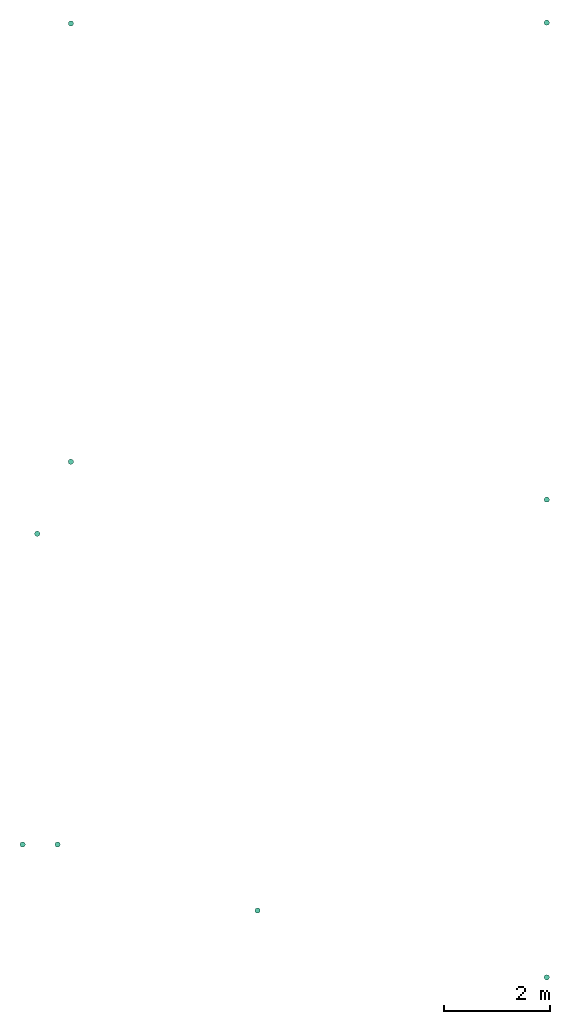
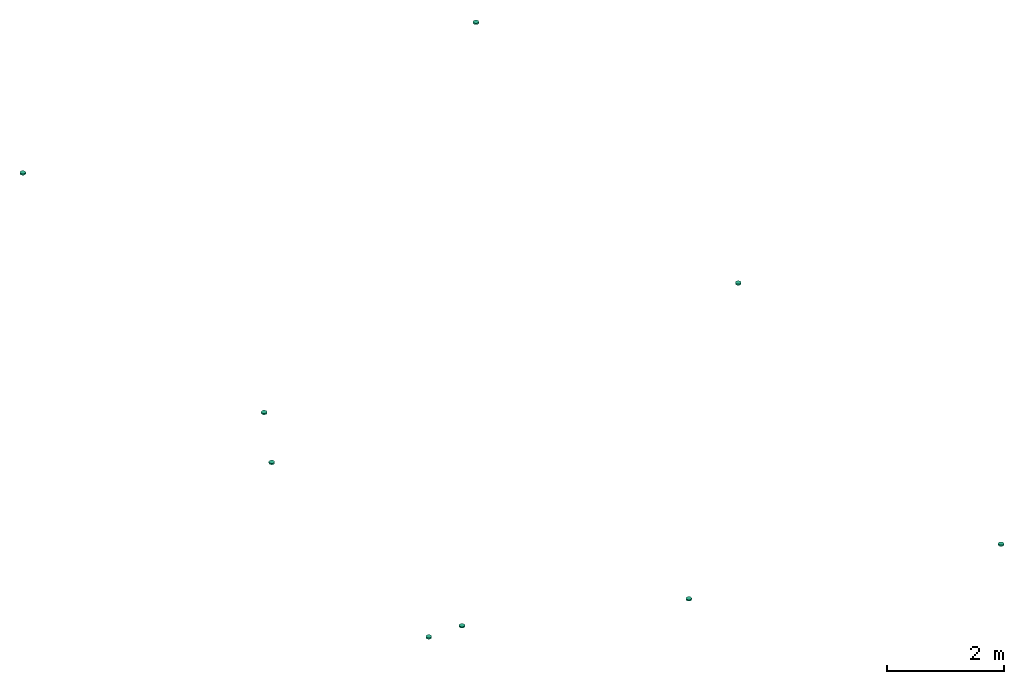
# One storey: 9 distribution control elements.
"""IFC2X3 building model written with IfcOpenShell, lengths in millimetres."""

from ifc_helpers import new_model, entity, si_unit, converted_unit, derived_unit, direction, frame, origin_with_axes, place, context, subcontext, project, spatial, open_shell, surface_model, source, transform, mapped, type_object, element, save


model = new_model("IFC2X3")

# Units and contexts
model_context = context("Model", 3, precision=0.01, world=frame((0.0, 4.29681676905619e-09, 0.0)), true_north=direction((4.01073788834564e-13, 1.0)))
plan_context = context("Plan", 3, precision=0.01, world=frame((0.0, 4.29681676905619e-09, 0.0)), true_north=direction((4.01073788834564e-13, 1.0)))
body_context = subcontext(model_context, "Body", "Model", "MODEL_VIEW")
ifc_project = project(units=[converted_unit("PLANEANGLEUNIT", "DEGREE", entity("IfcPositiveLengthMeasure", 0.0174532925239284), si_unit("PLANEANGLEUNIT", "RADIAN"), dimensions=[0, 0, 0, 0, 0, 0, 0]), si_unit("AREAUNIT", "SQUARE_METRE"), si_unit("LENGTHUNIT", "METRE", prefix="MILLI"), si_unit("MASSUNIT", "GRAM", prefix="KILO"), si_unit("POWERUNIT", "WATT"), si_unit("PRESSUREUNIT", "PASCAL"), si_unit("FORCEUNIT", "NEWTON", prefix="KILO"), si_unit("ELECTRICCURRENTUNIT", "AMPERE"), si_unit("THERMODYNAMICTEMPERATUREUNIT", "DEGREE_CELSIUS"), si_unit("TIMEUNIT", "SECOND"), si_unit("VOLUMEUNIT", "CUBIC_METRE"), derived_unit("LINEARVELOCITYUNIT", [(si_unit("LENGTHUNIT", "METRE"), 1), (si_unit("TIMEUNIT", "SECOND"), -1)]), derived_unit("VOLUMETRICFLOWRATEUNIT", [(si_unit("VOLUMEUNIT", "CUBIC_METRE"), 1), (si_unit("TIMEUNIT", "SECOND"), -1)]), derived_unit("THERMALTRANSMITTANCEUNIT", [(si_unit("POWERUNIT", "WATT"), 1), (si_unit("THERMODYNAMICTEMPERATUREUNIT", "KELVIN"), -1), (si_unit("AREAUNIT", "SQUARE_METRE"), -1)])], contexts=[model_context, plan_context])

# Site, building, storey
site_placement = place(None, frame((0.0, -4.29681676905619e-09, 0.0), z_axis=(0.0, 0.0, 1.0), x_axis=(1.0, 0.0, 0.0)))
site = spatial("IfcSite", under=ifc_project, at=site_placement, Name="ENGM", CompositionType="ELEMENT")
building_placement = place(site_placement, frame((0.0, 4.29681676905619e-09, 0.0), z_axis=(0.0, 0.0, 1.0), x_axis=(1.0, 0.0, 0.0)))
building = spatial("IfcBuilding", under=site, at=building_placement, Name="TS", CompositionType="ELEMENT")
storey_placement = place(building_placement, frame((0.0, 0.0, 200300.0), z_axis=(0.0, 0.0, 1.0), x_axis=(1.0, 0.0, 0.0)))
storey = spatial("IfcBuildingStorey", under=building, at=storey_placement, Name="Nivå C", CompositionType="ELEMENT", Elevation=200300.0)

# Distribution control elements
alarm_type = type_object("IfcAlarmType", Name="Standard", PredefinedType="NOTDEFINED")
shared_shape = source(origin_with_axes(), body_context, "Body", "SurfaceModel", [
    surface_model("IfcShellBasedSurfaceModel", [(-25.0, 43.30127, -28.9), (-35.35534, 35.35534, -28.9), (-18.0, 31.17691, -28.9), (-25.45584, 25.45584, -28.9), (-9.31749, 34.77333, -28.9), (-12.94095, 48.29629, -28.9), (0.0, 36.0, -28.9), (0.0, 50.0, -28.9), (-34.77333, 9.31749, -28.9), (-43.30127, 25.0, -28.9), (-48.29629, 12.94095, -28.9), (-36.0, 0.0, -28.9), (-50.0, 0.0, -28.9), (-31.17691, 18.0, -28.9), (9.31749, 34.77333, -28.9), (12.94095, 48.29629, -28.9), (18.0, 31.17691, -28.9), (35.35534, 35.35534, -28.9), (25.0, 43.30127, -28.9), (25.45584, 25.45584, -28.9), (31.17691, 18.0, -28.9), (34.77333, 9.31749, -28.9), (43.30127, 25.0, -28.9), (48.29629, 12.94095, -28.9), (36.0, 0.0, -28.9), (50.0, 0.0, -28.9), (-34.77333, -9.31749, -28.9), (-48.29629, -12.94095, -28.9), (-31.17691, -18.0, -28.9), (-43.30127, -25.0, -28.9), (-25.45584, -25.45584, -28.9), (-35.35534, -35.35534, -28.9), (-18.0, -31.17691, -28.9), (-25.0, -43.30127, -28.9), (-9.31749, -34.77333, -28.9), (-12.94095, -48.29629, -28.9), (0.0, -36.0, -28.9), (0.0, -50.0, -28.9), (43.30127, -25.0, -28.9), (31.17691, -18.0, -28.9), (35.35534, -35.35534, -28.9), (34.77333, -9.31749, -28.9), (48.29629, -12.94095, -28.9), (25.45584, -25.45584, -28.9), (9.31749, -34.77333, -28.9), (12.94095, -48.29629, -28.9), (18.0, -31.17691, -28.9), (25.0, -43.30127, -28.9), (-25.0, -43.30127, -29.1), (-35.35534, -35.35534, -29.1), (-18.0, -31.17691, -29.1), (-25.45584, -25.45584, -29.1), (-9.31749, -34.77333, -29.1), (-12.94095, -48.29629, -29.1), (0.0, -36.0, -29.1), (0.0, -50.0, -29.1), (-34.77333, -9.31749, -29.1), (-43.30127, -25.0, -29.1), (-48.29629, -12.94095, -29.1), (-36.0, 0.0, -29.1), (-50.0, 0.0, -29.1), (-31.17691, -18.0, -29.1), (9.31749, -34.77333, -29.1), (12.94095, -48.29629, -29.1), (18.0, -31.17691, -29.1), (35.35534, -35.35534, -29.1), (25.0, -43.30127, -29.1), (25.45584, -25.45584, -29.1), (31.17691, -18.0, -29.1), (34.77333, -9.31749, -29.1), (43.30127, -25.0, -29.1), (48.29629, -12.94095, -29.1), (36.0, 0.0, -29.1), (50.0, 0.0, -29.1), (-34.77333, 9.31749, -29.1), (-48.29629, 12.94095, -29.1), (-31.17691, 18.0, -29.1), (-43.30127, 25.0, -29.1), (-25.45584, 25.45584, -29.1), (-35.35534, 35.35534, -29.1), (-18.0, 31.17691, -29.1), (-25.0, 43.30127, -29.1), (-9.31749, 34.77333, -29.1), (-12.94095, 48.29629, -29.1), (0.0, 36.0, -29.1), (0.0, 50.0, -29.1), (43.30127, 25.0, -29.1), (31.17691, 18.0, -29.1), (35.35534, 35.35534, -29.1), (34.77333, 9.31749, -29.1), (48.29629, 12.94095, -29.1), (25.45584, 25.45584, -29.1), (9.31749, 34.77333, -29.1), (12.94095, 48.29629, -29.1), (18.0, 31.17691, -29.1), (25.0, 43.30127, -29.1), (6.47048, -24.14815, -44.9), (12.5, -21.65064, -44.9), (17.67767, -17.67767, -44.9), (24.14815, -6.47048, -44.9), (-24.14815, -6.47048, -44.9), (21.65064, -12.5, -44.9), (-21.65064, 12.5, -44.9), (0.0, -25.0, -44.9), (-12.5, -21.65064, -44.9), (-6.47048, -24.14815, -44.9), (-17.67767, -17.67767, -44.9), (-21.65064, -12.5, -44.9), (25.0, 0.0, -44.9), (24.14815, 6.47048, -44.9), (21.65064, 12.5, -44.9), (17.67767, 17.67767, -44.9), (12.5, 21.65064, -44.9), (6.47048, 24.14815, -44.9), (0.0, 25.0, -44.9), (-25.0, 0.0, -44.9), (-24.14815, 6.47048, -44.9), (-12.5, 21.65064, -44.9), (-17.67767, 17.67767, -44.9), (-6.47048, 24.14815, -44.9), (0.0, 25.0, -45.1), (6.47048, 24.14815, -45.1), (12.5, 21.65064, -45.1), (-21.65064, 12.5, -45.1), (17.67767, 17.67767, -45.1), (21.65064, 12.5, -45.1), (24.14815, 6.47048, -45.1), (-12.5, 21.65064, -45.1), (-17.67767, 17.67767, -45.1), (-6.47048, 24.14815, -45.1), (-25.0, 0.0, -45.1), (-24.14815, 6.47048, -45.1), (-24.14815, -6.47048, -45.1), (24.14815, -6.47048, -45.1), (6.47048, -24.14815, -45.1), (21.65064, -12.5, -45.1), (17.67767, -17.67767, -45.1), (12.5, -21.65064, -45.1), (-12.5, -21.65064, -45.1), (-17.67767, -17.67767, -45.1), (-21.65064, -12.5, -45.1), (0.0, -25.0, -45.1), (-6.47048, -24.14815, -45.1), (25.0, 0.0, -45.1), (-1.46739, 34.60682, -29.0), (0.0, 34.8, -29.0), (0.0, 35.0, -29.0), (-34.60682, 1.46739, -29.0), (-35.0, 0.0, -29.0), (-34.8, 0.0, -29.0), (-17.5, 30.31089, -29.0), (-18.5742, 29.23669, -29.0), (-17.4, 30.13768, -29.0), (-24.60732, -24.60732, -29.0), (-18.5742, -29.23669, -29.0), (-29.23669, -18.5742, -29.0), (34.8, 0.0, -29.0), (34.60682, -1.46739, -29.0), (35.0, 0.0, -29.0), (17.4, 30.13768, -29.0), (17.5, 30.31089, -29.0), (16.03261, 30.70407, -29.0), (30.13768, 17.4, -29.0), (30.31089, 17.5, -29.0), (29.23669, 18.5742, -29.0), (34.60682, 1.46739, -29.0), (33.61422, -9.0069, -29.0), (30.70407, -16.03261, -29.0), (-33.61422, -9.0069, -29.0), (-30.70407, -16.03261, -29.0), (-34.60682, -1.46739, -29.0), (-30.13768, -17.4, -29.0), (-30.31089, -17.5, -29.0), (-17.5, -30.31089, -29.0), (-17.4, -30.13768, -29.0), (-1.46739, -34.60682, -29.0), (0.0, -35.0, -29.0), (0.0, -34.8, -29.0), (-16.03261, -30.70407, -29.0), (-9.0069, -33.61422, -29.0), (1.46739, -34.60682, -29.0), (30.13768, -17.4, -29.0), (29.23669, -18.5742, -29.0), (30.31089, -17.5, -29.0), (24.60732, -24.60732, -29.0), (18.5742, -29.23669, -29.0), (9.0069, -33.61422, -29.0), (16.03261, -30.70407, -29.0), (-30.13768, 17.4, -29.0), (-30.31089, 17.5, -29.0), (-30.70407, 16.03261, -29.0), (17.4, -30.13768, -29.0), (17.5, -30.31089, -29.0), (-33.61422, 9.0069, -29.0), (-29.23669, 18.5742, -29.0), (-24.60732, 24.60732, -29.0), (-16.03261, 30.70407, -29.0), (-9.0069, 33.61422, -29.0), (1.46739, 34.60682, -29.0), (9.0069, 33.61422, -29.0), (18.5742, 29.23669, -29.0), (24.60732, 24.60732, -29.0), (30.70407, 16.03261, -29.0), (33.61422, 9.0069, -29.0), (23.00389, 18.55381, -38.25), (14.9, 25.80756, -38.25), (21.07178, 21.07178, -38.25), (29.66376, 1.03484, -38.25), (30.0, 0.0, -38.25), (29.8, 0.0, -38.25), (24.27051, 17.63356, -38.25), (24.68215, 16.36666, -38.25), (10.52665, 27.61906, -38.25), (28.78459, 7.71281, -38.25), (-10.52665, 27.61906, -38.25), (-23.00389, 18.55381, -38.25), (-14.9, 25.80756, -38.25), (8.32335, 28.5317, -38.25), (0.0, 29.8, -38.25), (7.71281, 28.78459, -38.25), (-8.32335, 28.5317, -38.25), (-24.68215, 16.36666, -38.25), (-28.78459, 7.71281, -38.25), (-25.80756, 14.9, -38.25), (-9.27051, 28.5317, -38.25), (-29.66376, 1.03484, -38.25), (-29.8, 0.0, -38.25), (-30.0, 0.0, -38.25), (-28.78459, -7.71281, -38.25), (-24.68215, -16.36666, -38.25), (-25.80756, -14.9, -38.25), (29.66376, -1.03484, -38.25), (-7.71281, 28.78459, -38.25), (25.80756, 14.9, -38.25), (14.9, -25.80756, -38.25), (10.52665, -27.61906, -38.25), (23.00389, -18.55381, -38.25), (28.78459, -7.71281, -38.25), (24.68215, -16.36666, -38.25), (0.0, -29.8, -38.25), (-7.71281, -28.78459, -38.25), (-8.32335, -28.5317, -38.25), (8.32335, -28.5317, -38.25), (9.27051, 28.5317, -38.25), (-29.66376, -1.03484, -38.25), (21.07178, -21.07178, -38.25), (-23.00389, -18.55381, -38.25), (-24.27051, -17.63356, -38.25), (-9.27051, -28.5317, -38.25), (-10.52665, -27.61906, -38.25), (-21.07178, -21.07178, -38.25), (-14.9, -25.80756, -38.25), (9.27051, -28.5317, -38.25), (7.71281, -28.78459, -38.25), (24.27051, -17.63356, -38.25), (25.80756, -14.9, -38.25), (-21.07178, 21.07178, -38.25), (-24.27051, 17.63356, -38.25), (33.28589, -6.39713, -29.0), (27.13526, -8.81678, -38.25), (-16.77051, -23.08263, -38.25), (-23.90544, -23.90544, -29.0), (-27.13526, -8.81678, -38.25), (-33.28589, -6.39713, -29.0), (16.77051, -23.08263, -38.25), (8.75, -32.65544, -29.0), (0.0, -28.5317, -38.25), (23.90544, -23.90544, -29.0), (-8.75, -32.65544, -29.0), (-33.28589, 6.39713, -29.0), (-27.13526, 8.81678, -38.25), (16.77051, 23.08263, -38.25), (23.90544, 23.90544, -29.0), (27.13526, 8.81678, -38.25), (33.28589, 6.39713, -29.0), (-16.77051, 23.08263, -38.25), (-8.75, 32.65544, -29.0), (0.0, 28.5317, -38.25), (-23.90544, 23.90544, -29.0), (8.75, 32.65544, -29.0), (12.4, 21.47743, -45.0), (17.53625, 17.53625, -45.0), (19.07577, 15.5299, -45.0), (20.22543, 14.69463, -45.0), (20.59905, 13.54472, -45.0), (24.66376, 1.03484, -45.0), (25.0, 0.0, -45.0), (24.8, 0.0, -45.0), (8.88673, 22.93267, -45.0), (23.95496, 6.41871, -45.0), (-8.88673, 22.93267, -45.0), (-19.07577, 15.5299, -45.0), (-12.4, 21.47743, -45.0), (6.84976, 23.77641, -45.0), (0.0, 24.8, -45.0), (6.41871, 23.95496, -45.0), (-7.72542, 23.77641, -45.0), (-6.84976, 23.77641, -45.0), (-21.47743, 12.4, -45.0), (-20.59905, 13.54472, -45.0), (-23.95496, 6.41871, -45.0), (-25.0, 0.0, -45.0), (-24.66376, 1.03484, -45.0), (-24.8, 0.0, -45.0), (-23.95496, -6.41871, -45.0), (-20.59905, -13.54472, -45.0), (-21.47743, -12.4, -45.0), (-6.41871, 23.95496, -45.0), (24.66376, -1.03484, -45.0), (21.47743, 12.4, -45.0), (12.4, -21.47743, -45.0), (8.88673, -22.93267, -45.0), (19.07577, -15.5299, -45.0), (23.95496, -6.41871, -45.0), (20.59905, -13.54472, -45.0), (0.0, -24.8, -45.0), (-6.41871, -23.95496, -45.0), (-6.84976, -23.77641, -45.0), (7.72542, -23.77641, -45.0), (6.84976, -23.77641, -45.0), (7.72542, 23.77641, -45.0), (-24.66376, -1.03484, -45.0), (17.53625, -17.53625, -45.0), (-20.22543, -14.69463, -45.0), (-19.07577, -15.5299, -45.0), (-8.88673, -22.93267, -45.0), (-7.72542, -23.77641, -45.0), (-17.53625, -17.53625, -45.0), (-12.4, -21.47743, -45.0), (6.41871, -23.95496, -45.0), (20.22543, -14.69463, -45.0), (21.47743, -12.4, -45.0), (-17.53625, 17.53625, -45.0), (-20.22543, 14.69463, -45.0), (-22.61271, -7.34732, -45.0), (-13.97542, -19.23552, -45.0), (0.0, -23.77641, -45.0), (21.83768, -9.73262, -45.0), (13.97542, -19.23552, -45.0), (23.41884, -4.86631, -45.0), (22.61271, 7.34732, -45.0), (13.97542, 19.23552, -45.0), (0.0, 23.77641, -45.0), (-21.83768, 9.73262, -45.0), (-13.97542, 19.23552, -45.0), (-23.41884, 4.86631, -45.0), (12.94095, -48.29629, 0.0), (25.0, -43.30127, 0.0), (35.35534, -35.35534, 0.0), (48.29629, -12.94095, 0.0), (-48.29629, -12.94095, 0.0), (43.30127, -25.0, 0.0), (-43.30127, 25.0, 0.0), (0.0, -50.0, 0.0), (-25.0, -43.30127, 0.0), (-12.94095, -48.29629, 0.0), (-35.35534, -35.35534, 0.0), (-43.30127, -25.0, 0.0), (50.0, 0.0, 0.0), (48.29629, 12.94095, 0.0), (43.30127, 25.0, 0.0), (35.35534, 35.35534, 0.0), (25.0, 43.30127, 0.0), (12.94095, 48.29629, 0.0), (0.0, 50.0, 0.0), (-50.0, 0.0, 0.0), (-48.29629, 12.94095, 0.0), (-25.0, 43.30127, 0.0), (-35.35534, 35.35534, 0.0), (-12.94095, 48.29629, 0.0), (0.0, 50.0, -29.0), (12.94095, 48.29629, -29.0), (25.0, 43.30127, -29.0), (-43.30127, 25.0, -29.0), (35.35534, 35.35534, -29.0), (43.30127, 25.0, -29.0), (48.29629, 12.94095, -29.0), (-25.0, 43.30127, -29.0), (-35.35534, 35.35534, -29.0), (-12.94095, 48.29629, -29.0), (-50.0, 0.0, -29.0), (-48.29629, 12.94095, -29.0), (-48.29629, -12.94095, -29.0), (48.29629, -12.94095, -29.0), (12.94095, -48.29629, -29.0), (43.30127, -25.0, -29.0), (35.35534, -35.35534, -29.0), (25.0, -43.30127, -29.0), (-25.0, -43.30127, -29.0), (-35.35534, -35.35534, -29.0), (-43.30127, -25.0, -29.0), (0.0, -50.0, -29.0), (-12.94095, -48.29629, -29.0), (50.0, 0.0, -29.0)], [open_shell([[[0, 1, 2]], [[2, 1, 3]], [[0, 2, 4]], [[5, 4, 6]], [[4, 5, 0]], [[5, 6, 7]], [[8, 9, 10]], [[11, 10, 12]], [[8, 10, 11]], [[13, 3, 9]], [[8, 13, 9]], [[9, 3, 1]], [[7, 14, 15]], [[14, 7, 6]], [[15, 14, 16]], [[17, 18, 19]], [[16, 18, 15]], [[19, 18, 16]], [[20, 21, 22]], [[20, 22, 17]], [[21, 23, 22]], [[23, 21, 24]], [[23, 24, 25]], [[20, 17, 19]], [[26, 12, 27]], [[28, 27, 29]], [[28, 26, 27]], [[30, 28, 29]], [[29, 31, 30]], [[32, 31, 33]], [[31, 32, 30]], [[32, 33, 34]], [[34, 35, 36]], [[35, 34, 33]], [[36, 35, 37]], [[38, 39, 40]], [[41, 39, 42]], [[41, 42, 25]], [[42, 39, 38]], [[39, 43, 40]], [[25, 24, 41]], [[44, 37, 45]], [[37, 44, 36]], [[44, 45, 46]], [[47, 40, 43]], [[47, 46, 45]], [[47, 43, 46]], [[26, 11, 12]], [[48, 49, 50]], [[50, 49, 51]], [[48, 50, 52]], [[53, 52, 54]], [[52, 53, 48]], [[53, 54, 55]], [[56, 57, 58]], [[59, 58, 60]], [[56, 58, 59]], [[61, 51, 57]], [[56, 61, 57]], [[57, 51, 49]], [[55, 62, 63]], [[62, 55, 54]], [[63, 62, 64]], [[65, 66, 67]], [[64, 66, 63]], [[67, 66, 64]], [[68, 69, 70]], [[68, 70, 65]], [[69, 71, 70]], [[71, 69, 72]], [[71, 72, 73]], [[68, 65, 67]], [[74, 60, 75]], [[76, 75, 77]], [[76, 74, 75]], [[78, 76, 77]], [[77, 79, 78]], [[80, 79, 81]], [[79, 80, 78]], [[80, 81, 82]], [[82, 83, 84]], [[83, 82, 81]], [[84, 83, 85]], [[86, 87, 88]], [[89, 87, 90]], [[89, 90, 73]], [[90, 87, 86]], [[87, 91, 88]], [[73, 72, 89]], [[92, 85, 93]], [[85, 92, 84]], [[92, 93, 94]], [[95, 88, 91]], [[95, 94, 93]], [[95, 91, 94]], [[74, 59, 60]], [[11, 59, 8]], [[8, 74, 13]], [[2, 3, 78]], [[76, 3, 13]], [[4, 2, 80]], [[74, 76, 13]], [[8, 59, 74]], [[84, 6, 82]], [[4, 80, 82]], [[80, 2, 78]], [[3, 76, 78]], [[4, 82, 6]], [[14, 92, 16]], [[16, 94, 19]], [[21, 20, 87]], [[91, 20, 19]], [[24, 21, 89]], [[92, 94, 16]], [[14, 84, 92]], [[21, 87, 89]], [[87, 20, 91]], [[19, 94, 91]], [[24, 89, 72]], [[6, 84, 14]], [[24, 72, 41]], [[41, 69, 39]], [[46, 43, 67]], [[68, 43, 39]], [[44, 46, 64]], [[69, 68, 39]], [[41, 72, 69]], [[54, 36, 62]], [[44, 64, 62]], [[64, 46, 67]], [[43, 68, 67]], [[44, 62, 36]], [[34, 52, 32]], [[32, 50, 30]], [[26, 28, 61]], [[51, 28, 30]], [[11, 26, 56]], [[52, 50, 32]], [[34, 54, 52]], [[26, 61, 56]], [[61, 28, 51]], [[30, 50, 51]], [[11, 56, 59]], [[36, 54, 34]], [[58, 27, 60]], [[57, 29, 58]], [[33, 49, 48]], [[57, 49, 31]], [[35, 48, 53]], [[58, 29, 27]], [[27, 12, 60]], [[35, 33, 48]], [[31, 49, 33]], [[31, 29, 57]], [[37, 35, 53]], [[53, 55, 37]], [[63, 45, 55]], [[66, 47, 63]], [[38, 65, 70]], [[66, 65, 40]], [[42, 70, 71]], [[66, 40, 47]], [[47, 45, 63]], [[25, 42, 71]], [[38, 70, 42]], [[38, 40, 65]], [[73, 25, 71]], [[55, 45, 37]], [[90, 23, 73]], [[86, 22, 90]], [[18, 88, 95]], [[86, 88, 17]], [[15, 95, 93]], [[90, 22, 23]], [[23, 25, 73]], [[15, 18, 95]], [[17, 88, 18]], [[17, 22, 86]], [[7, 15, 93]], [[93, 85, 7]], [[83, 5, 85]], [[81, 0, 83]], [[9, 79, 77]], [[81, 79, 1]], [[10, 77, 75]], [[81, 1, 0]], [[0, 5, 83]], [[12, 10, 75]], [[9, 77, 10]], [[9, 1, 79]], [[60, 12, 75]], [[85, 5, 7]], [[96, 97, 98]], [[96, 98, 99]], [[96, 99, 100]], [[99, 98, 101]], [[102, 100, 99]], [[103, 104, 105]], [[103, 96, 104]], [[106, 100, 107]], [[106, 104, 96]], [[100, 106, 96]], [[99, 108, 102]], [[109, 110, 111]], [[109, 111, 112]], [[112, 113, 114]], [[109, 112, 102]], [[102, 112, 114]], [[115, 102, 116]], [[100, 102, 115]], [[102, 117, 118]], [[117, 102, 119]], [[114, 119, 102]], [[102, 108, 109]], [[120, 121, 122]], [[123, 120, 122]], [[124, 125, 126]], [[124, 126, 122]], [[123, 122, 126]], [[127, 123, 128]], [[123, 127, 129]], [[123, 130, 131]], [[123, 129, 120]], [[123, 132, 130]], [[123, 126, 133]], [[132, 123, 133]], [[134, 133, 135]], [[136, 137, 134]], [[136, 134, 135]], [[138, 133, 134]], [[132, 139, 140]], [[132, 133, 139]], [[138, 141, 142]], [[139, 133, 138]], [[134, 141, 138]], [[133, 126, 143]], [[132, 100, 130]], [[140, 107, 132]], [[104, 139, 138]], [[140, 139, 106]], [[105, 138, 142]], [[132, 107, 100]], [[100, 115, 130]], [[105, 104, 138]], [[106, 139, 104]], [[106, 107, 140]], [[103, 105, 142]], [[142, 141, 103]], [[134, 96, 141]], [[137, 97, 134]], [[101, 136, 135]], [[137, 136, 98]], [[99, 135, 133]], [[137, 98, 97]], [[97, 96, 134]], [[108, 99, 133]], [[101, 135, 99]], [[101, 98, 136]], [[143, 108, 133]], [[141, 96, 103]], [[126, 109, 143]], [[125, 110, 126]], [[112, 124, 122]], [[125, 124, 111]], [[113, 122, 121]], [[126, 110, 109]], [[109, 108, 143]], [[113, 112, 122]], [[111, 124, 112]], [[111, 110, 125]], [[114, 113, 121]], [[121, 120, 114]], [[129, 119, 120]], [[127, 117, 129]], [[102, 128, 123]], [[127, 128, 118]], [[116, 123, 131]], [[127, 118, 117]], [[117, 119, 129]], [[115, 116, 131]], [[102, 123, 116]], [[102, 118, 128]], [[130, 115, 131]], [[120, 119, 114]], [[144, 145, 146]], [[147, 148, 149]], [[150, 151, 152]], [[153, 154, 155]], [[156, 157, 158]], [[159, 160, 161]], [[162, 163, 164]], [[156, 158, 165]], [[166, 157, 167]], [[168, 169, 170]], [[170, 149, 148]], [[171, 169, 172]], [[173, 174, 154]], [[175, 176, 177]], [[174, 173, 178]], [[155, 171, 172]], [[179, 175, 178]], [[180, 177, 176]], [[181, 182, 183]], [[181, 183, 167]], [[184, 182, 185]], [[186, 187, 180]], [[188, 189, 190]], [[191, 192, 185]], [[191, 187, 192]], [[193, 147, 190]], [[188, 194, 189]], [[195, 194, 151]], [[152, 196, 150]], [[197, 196, 144]], [[145, 198, 146]], [[199, 198, 161]], [[159, 200, 160]], [[201, 200, 164]], [[162, 202, 163]], [[203, 202, 165]], [[204, 205, 206]], [[207, 208, 209]], [[204, 210, 211]], [[205, 204, 212]], [[213, 207, 211]], [[214, 215, 216]], [[217, 218, 219]], [[218, 217, 220]], [[221, 222, 223]], [[220, 214, 224]], [[225, 226, 227]], [[228, 229, 230]], [[209, 208, 231]], [[218, 220, 232]], [[213, 211, 233]], [[234, 235, 236]], [[237, 238, 231]], [[239, 240, 241]], [[241, 242, 239]], [[243, 212, 217]], [[227, 226, 244]], [[234, 236, 245]], [[229, 246, 247]], [[241, 248, 249]], [[250, 246, 251]], [[228, 244, 229]], [[235, 252, 242]], [[239, 242, 253]], [[236, 238, 254]], [[238, 237, 255]], [[251, 246, 249]], [[216, 215, 256]], [[215, 221, 257]], [[222, 221, 225]], [[208, 158, 258]], [[183, 259, 258]], [[260, 261, 247]], [[172, 262, 247]], [[263, 227, 262]], [[192, 252, 264]], [[260, 248, 173]], [[261, 260, 173]], [[252, 265, 266]], [[227, 263, 148]], [[172, 263, 262]], [[258, 259, 208]], [[254, 267, 264]], [[268, 173, 248]], [[252, 192, 265]], [[192, 264, 267]], [[267, 254, 183]], [[259, 183, 254]], [[268, 266, 176]], [[265, 176, 266]], [[248, 266, 268]], [[172, 247, 261]], [[227, 148, 269]], [[189, 270, 269]], [[271, 272, 210]], [[163, 273, 210]], [[274, 208, 273]], [[150, 224, 275]], [[271, 243, 160]], [[272, 271, 160]], [[224, 276, 277]], [[208, 274, 158]], [[163, 274, 273]], [[269, 270, 227]], [[257, 278, 275]], [[279, 160, 243]], [[224, 150, 276]], [[150, 275, 278]], [[278, 257, 189]], [[270, 189, 257]], [[279, 277, 146]], [[276, 146, 277]], [[243, 277, 279]], [[163, 210, 272]], [[171, 230, 228]], [[168, 228, 226]], [[179, 240, 251]], [[174, 251, 250]], [[153, 250, 230]], [[168, 171, 228]], [[226, 149, 168]], [[251, 174, 179]], [[174, 250, 153]], [[230, 171, 153]], [[240, 179, 177]], [[177, 239, 240]], [[184, 245, 234]], [[191, 234, 253]], [[156, 209, 237]], [[166, 237, 255]], [[181, 255, 245]], [[239, 186, 253]], [[186, 191, 253]], [[177, 186, 239]], [[184, 181, 245]], [[191, 184, 234]], [[181, 166, 255]], [[166, 156, 237]], [[162, 233, 213]], [[203, 213, 209]], [[199, 219, 205]], [[159, 205, 206]], [[201, 206, 233]], [[203, 162, 213]], [[209, 156, 203]], [[205, 159, 199]], [[159, 206, 201]], [[233, 162, 201]], [[219, 199, 145]], [[145, 218, 219]], [[195, 256, 216]], [[152, 216, 232]], [[149, 226, 222]], [[193, 222, 223]], [[188, 223, 256]], [[218, 197, 232]], [[197, 152, 232]], [[145, 197, 218]], [[195, 188, 256]], [[152, 195, 216]], [[188, 193, 223]], [[193, 149, 222]], [[215, 216, 256]], [[221, 222, 225]], [[225, 227, 226]], [[257, 221, 215]], [[216, 215, 214]], [[212, 204, 205]], [[220, 218, 232]], [[218, 220, 217]], [[217, 212, 243]], [[233, 211, 213]], [[208, 207, 209]], [[237, 238, 255]], [[252, 235, 242]], [[218, 217, 219]], [[227, 244, 226]], [[222, 221, 223]], [[228, 229, 244]], [[239, 253, 242]], [[246, 251, 249]], [[249, 248, 241]], [[231, 238, 237]], [[208, 209, 231]], [[251, 246, 250]], [[254, 238, 236]], [[236, 234, 245]], [[214, 220, 224]], [[242, 241, 239]], [[239, 241, 240]], [[246, 229, 247]], [[230, 229, 228]], [[234, 236, 235]], [[205, 204, 206]], [[204, 211, 210]], [[213, 211, 207]], [[280, 281, 282]], [[282, 283, 284]], [[285, 286, 287]], [[280, 282, 288]], [[289, 285, 284]], [[290, 291, 292]], [[293, 294, 295]], [[290, 296, 297]], [[294, 293, 297]], [[298, 299, 300]], [[301, 302, 303]], [[304, 305, 306]], [[294, 297, 307]], [[308, 287, 286]], [[289, 284, 309]], [[310, 311, 312]], [[313, 314, 308]], [[315, 316, 317]], [[311, 318, 319]], [[293, 320, 288]], [[301, 303, 321]], [[310, 312, 322]], [[323, 305, 324]], [[325, 317, 326]], [[327, 324, 328]], [[304, 321, 305]], [[317, 319, 315]], [[315, 319, 329]], [[312, 314, 330]], [[331, 314, 313]], [[328, 324, 325]], [[292, 291, 332]], [[291, 299, 333]], [[300, 299, 302]], [[262, 301, 334]], [[334, 323, 247]], [[248, 335, 326]], [[301, 262, 227]], [[334, 247, 262]], [[260, 323, 335]], [[266, 248, 326]], [[336, 252, 266]], [[252, 336, 318]], [[323, 260, 247]], [[248, 260, 335]], [[254, 337, 259]], [[318, 264, 252]], [[338, 254, 264]], [[339, 286, 208]], [[264, 318, 338]], [[259, 339, 208]], [[338, 330, 254]], [[266, 326, 336]], [[259, 337, 339]], [[337, 254, 330]], [[273, 286, 340]], [[340, 283, 210]], [[243, 341, 320]], [[286, 273, 208]], [[340, 210, 273]], [[271, 283, 341]], [[277, 243, 320]], [[342, 224, 277]], [[224, 342, 296]], [[283, 271, 210]], [[243, 271, 341]], [[257, 343, 270]], [[296, 275, 224]], [[344, 257, 275]], [[345, 301, 227]], [[275, 296, 344]], [[270, 345, 227]], [[344, 333, 257]], [[277, 320, 342]], [[270, 343, 345]], [[343, 257, 333]], [[230, 306, 304]], [[228, 304, 303]], [[240, 316, 328]], [[251, 328, 327]], [[250, 327, 306]], [[228, 230, 304]], [[303, 226, 228]], [[328, 251, 240]], [[251, 327, 250]], [[306, 230, 250]], [[316, 240, 239]], [[239, 315, 316]], [[245, 322, 310]], [[234, 310, 329]], [[209, 287, 313]], [[237, 313, 331]], [[255, 331, 322]], [[315, 253, 329]], [[253, 234, 329]], [[239, 253, 315]], [[255, 322, 245]], [[234, 245, 310]], [[331, 255, 237]], [[237, 209, 313]], [[233, 309, 289]], [[213, 289, 287]], [[219, 295, 280]], [[205, 280, 281]], [[206, 281, 309]], [[213, 233, 289]], [[287, 209, 213]], [[280, 205, 219]], [[205, 281, 206]], [[309, 233, 206]], [[295, 219, 218]], [[218, 294, 295]], [[256, 332, 292]], [[216, 292, 307]], [[226, 303, 300]], [[222, 300, 298]], [[223, 298, 332]], [[294, 232, 307]], [[232, 216, 307]], [[218, 232, 294]], [[223, 332, 256]], [[216, 256, 292]], [[298, 223, 222]], [[222, 226, 300]], [[346, 347, 348]], [[346, 348, 349]], [[346, 349, 350]], [[349, 348, 351]], [[352, 350, 349]], [[353, 354, 355]], [[353, 346, 354]], [[356, 350, 357]], [[356, 354, 346]], [[350, 356, 346]], [[349, 358, 352]], [[359, 360, 361]], [[359, 361, 362]], [[362, 363, 364]], [[359, 362, 352]], [[352, 362, 364]], [[365, 352, 366]], [[350, 352, 365]], [[352, 367, 368]], [[367, 352, 369]], [[364, 369, 352]], [[352, 358, 359]], [[370, 371, 372]], [[373, 370, 372]], [[374, 375, 376]], [[374, 376, 372]], [[373, 372, 376]], [[377, 373, 378]], [[373, 377, 379]], [[373, 380, 381]], [[373, 379, 370]], [[373, 382, 380]], [[373, 376, 383]], [[382, 373, 383]], [[384, 383, 385]], [[386, 387, 384]], [[386, 384, 385]], [[388, 383, 384]], [[382, 389, 390]], [[382, 383, 389]], [[388, 391, 392]], [[389, 383, 388]], [[384, 391, 388]], [[383, 376, 393]], [[382, 350, 380]], [[390, 357, 382]], [[354, 389, 388]], [[390, 389, 356]], [[355, 388, 392]], [[382, 357, 350]], [[350, 365, 380]], [[355, 354, 388]], [[356, 389, 354]], [[356, 357, 390]], [[353, 355, 392]], [[392, 391, 353]], [[384, 346, 391]], [[387, 347, 384]], [[351, 386, 385]], [[387, 386, 348]], [[349, 385, 383]], [[387, 348, 347]], [[347, 346, 384]], [[358, 349, 383]], [[351, 385, 349]], [[351, 348, 386]], [[393, 358, 383]], [[391, 346, 353]], [[376, 359, 393]], [[375, 360, 376]], [[362, 374, 372]], [[375, 374, 361]], [[363, 372, 371]], [[376, 360, 359]], [[359, 358, 393]], [[363, 362, 372]], [[361, 374, 362]], [[361, 360, 375]], [[364, 363, 371]], [[371, 370, 364]], [[369, 370, 379]], [[367, 379, 377]], [[352, 373, 381]], [[366, 381, 380]], [[379, 367, 369]], [[367, 377, 378]], [[367, 378, 368]], [[368, 378, 352]], [[352, 378, 373]], [[352, 381, 366]], [[380, 365, 366]], [[370, 369, 364]]])]),
])
for number, where, z_axis, x_axis, name in (
    (1, (514625.46233, 403490.12794, 3100.0), (0.0, 0.0, 1.0), (1.0, 0.0, 0.0), "Standard"),
    (2, (515285.46233, 403490.12794, 3100.0), (0.0, 0.0, 1.0), (1.0, 0.0, 0.0), "Standard"),
    (3, (514901.65435, 409354.67293, 3100.0), (0.0, 0.0, 1.0), (1.0, 0.0, 0.0), "Standard"),
    (4, (515535.58175, 410714.13461, 3100.0), (0.0, 0.0, 1.0), (1.0, 0.0, 0.0), "Standard"),
    (5, (515535.58175, 418984.76, 3100.0), (0.0, 0.0, 1.0), (1.0, 0.0, 0.0), "Standard"),
    (6, (524515.24, 400984.76, 3100.0), (0.0, 0.0, 1.0), (1.0, 0.0, 0.0), "Standard"),
    (7, (519058.76764, 402244.4859, 3100.0), (0.0, 0.0, 1.0), (1.0, 0.0, 0.0), "Standard"),
    (8, (524515.24, 410000.0, 3100.0), (0.0, 0.0, 1.0), (1.0, 0.0, 0.0), "Standard"),
    (9, (524515.24, 419000.0, 3100.0), (0.0, 0.0, 1.0), (1.0, 0.0, 0.0), "Standard"),
):
    element("IfcDistributionControlElement", number, at=place(storey_placement, frame(where, z_axis=z_axis, x_axis=x_axis)), inside=storey, type_object=alarm_type, Name=name, context=body_context, shape_type="MappedRepresentation", body=[
        mapped(shared_shape, transform((0.0, 0.0, 0.0), scale=1.0)),
    ])

save(model, "model.ifc")
